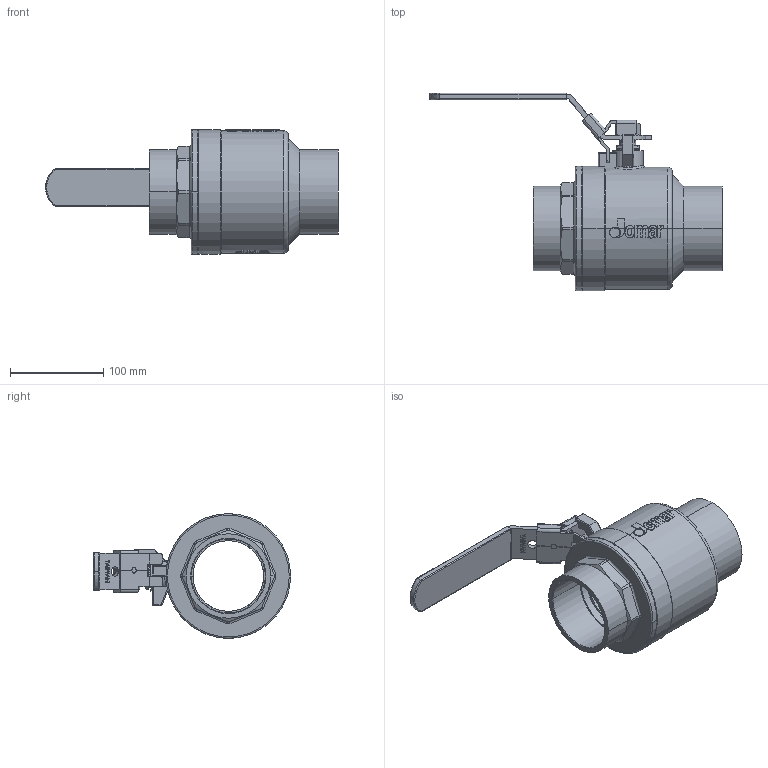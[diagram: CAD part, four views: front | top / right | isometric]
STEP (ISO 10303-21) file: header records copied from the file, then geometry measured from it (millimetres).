
FILE_DESCRIPTION (( 'STEP AP203' ), '1' );
FILE_NAME ('ABL760-有掛鎖-3''''全流量JOMA球閥CxC組合.STEP', '2025-12-15T08:34:37', ( '' ), ( '' ), 'SwSTEP 2.0', 'SolidWorks 2018', '' );
FILE_SCHEMA (( 'CONFIG_CONTROL_DESIGN' ));
Length unit declared in the file: millimetre
Products named in the file (14): DN65 & DN80-CBL749-白色膠套-T&G-200CSSG-LH; BBL720A-3''''JOMA球閥 CxC帽蓋-無鉛-端面無插溝; EBL209B; GBL210; EBL241; TBL271; DN65-掛鎖把手-CBL270; RBL270; BBL720-3''''全流量JOMA球閥體-CxC-無鉛-端面無插溝; ABL760-有掛鎖-3''''全流量JOMA球閥CxC組合; DN65-掛鎖; DN65-CBL749-LATCH LOCK HANDLE 組合; EBL209A; NBL270
Assembly tree (14 placements, depth 3):
  ABL760-有掛鎖-3''''全流量JOMA球閥CxC組合
    BBL720-3''''全流量JOMA球閥體-CxC-無鉛-端面無插溝
    RBL270
    EBL209A
    EBL209B
    GBL210
    BBL720A-3''''JOMA球閥 CxC帽蓋-無鉛-端面無插溝
    DN65-CBL749-LATCH LOCK HANDLE 組合
      DN65-掛鎖把手-CBL270
      DN65-掛鎖
    NBL270
    EBL241  x2
    TBL271
    DN65 & DN80-CBL749-白色膠套-T&G-200CSSG-LH
Bounding box: 314.9 x 212.11 x 134 mm (x, y, z)
Volume: 1051705.4 mm3; surface area: 345254.7 mm2
Topology: 13 solids, 13 shells, 2339 faces, 6283 edges, 4142 vertices
Faces by surface type: plane 1246, bspline 672, cylinder 309, cone 62, torus 38, sphere 12
Entity records: 126753 total; most frequent: CARTESIAN_POINT 72242, ORIENTED_EDGE 12498, DIRECTION 8355, EDGE_CURVE 6249, VERTEX_POINT 4124, VECTOR 3915, LINE 3915, EDGE_LOOP 2535
